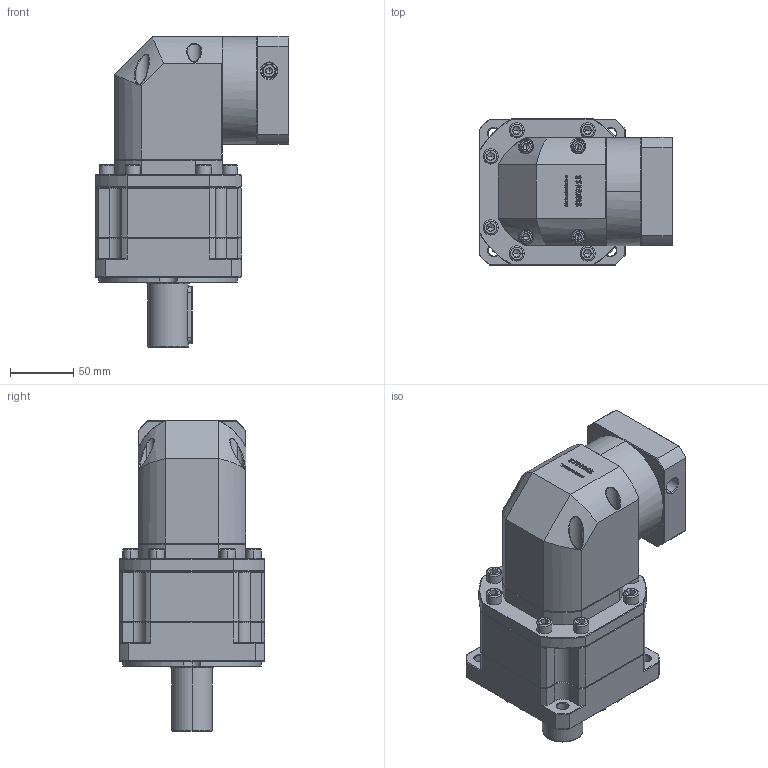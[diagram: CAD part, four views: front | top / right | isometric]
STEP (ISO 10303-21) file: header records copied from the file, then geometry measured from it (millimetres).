
FILE_DESCRIPTION (( 'STEP AP214' ), '1' );
FILE_NAME ('ZBR115A-D32-L2-14-60-75-M6.step', '2023-03-02T14:36:23', ( '' ), ( 'Microsoft' ), 'SwSTEP 2.0', 'SolidWorks 2016', '' );
FILE_SCHEMA (( 'AUTOMOTIVE_DESIGN' ));
Length unit declared in the file: millimetre
Products named in the file (1): ZBR115A-D32-L2-14-60-75-M6
Bounding box: 152.6 x 115 x 245 mm (x, y, z)
Volume: 1960558.8 mm3; surface area: 177162.4 mm2
Topology: 6 solids, 6 shells, 3212 faces, 8420 edges, 5358 vertices
Faces by surface type: plane 1720, bspline 633, cylinder 479, cone 366, torus 14
Entity records: 171440 total; most frequent: CARTESIAN_POINT 62199, ORIENTED_EDGE 16732, DIRECTION 12887, EDGE_CURVE 8366, LINE 5641, VECTOR 5641, VERTEX_POINT 5358, AXIS2_PLACEMENT_3D 3623
